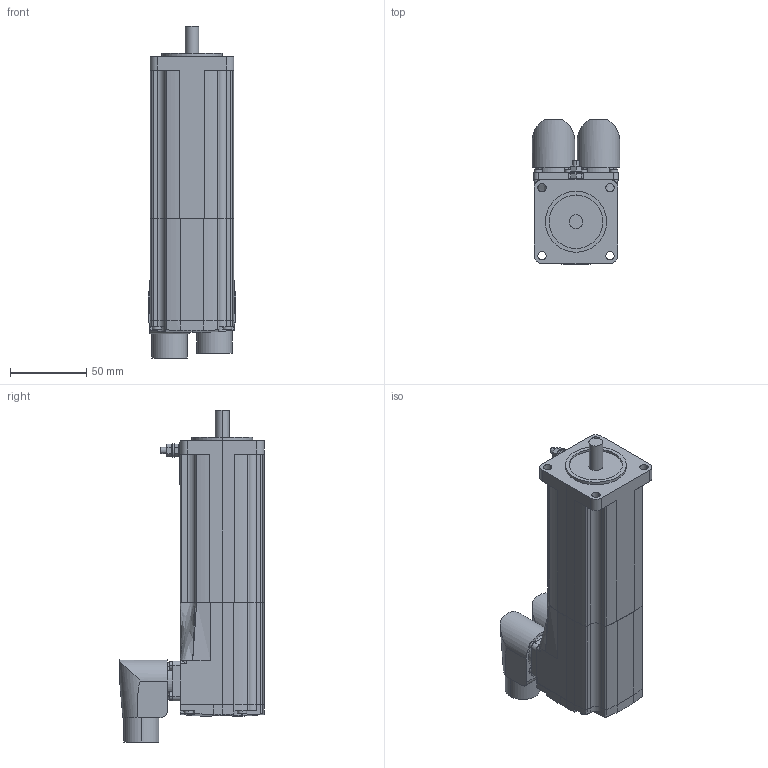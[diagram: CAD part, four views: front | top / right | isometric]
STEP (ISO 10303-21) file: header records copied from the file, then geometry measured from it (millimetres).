
FILE_DESCRIPTION (( 'STEP AP214' ), '1' );
FILE_NAME ('SH30552x0xF2100.STEP', '2013-11-29T07:22:21', ( 'Windows User' ), ( 'Schneider-Electric' ), 'SwSTEP 2.0', 'SolidWorks 2010', '' );
FILE_SCHEMA (( 'AUTOMOTIVE_DESIGN' ));
Length unit declared in the file: millimetre
Products named in the file (7): 1-100011007_K-TOPFGEHÄUSE SH3-055X_000_Topfgehäuse SH30552 ohne Passfeder; 1-100011008_K-LAGERSCHILD SH3-055X-A UND F_000_Lagerschild SH3-055x-F; 1-100011009_K-DECKEL SH3-055X_000_Deckel SH3-055x; 1-100011011_K-ERDUNGSBOLZEN M4_000; K-ENCODER-CONINVERS-ABGEW_ENCODER-CONINVERS-ABGEWINKELT_000_Single- MultiTurn; K-POWER-CONINVERS-ABGEWIN_POWER-CONINVERS-ABGEWINKELT_000_mit Bremse; SH30552x0xF2100
Assembly tree (6 placements, depth 2):
  SH30552x0xF2100
    1-100011008_K-LAGERSCHILD SH3-055X-A UND F_000_Lagerschild SH3-055x-F
    1-100011007_K-TOPFGEHÄUSE SH3-055X_000_Topfgehäuse SH30552 ohne Passfeder
    1-100011011_K-ERDUNGSBOLZEN M4_000
    1-100011009_K-DECKEL SH3-055X_000_Deckel SH3-055x
    K-ENCODER-CONINVERS-ABGEW_ENCODER-CONINVERS-ABGEWINKELT_000_Single- MultiTurn
    K-POWER-CONINVERS-ABGEWIN_POWER-CONINVERS-ABGEWINKELT_000_mit Bremse
Bounding box: 57.5 x 94.5 x 217.45 mm (x, y, z)
Volume: 556228.8 mm3; surface area: 72203.2 mm2
Topology: 6 solids, 6 shells, 400 faces, 997 edges, 658 vertices
Faces by surface type: cylinder 193, plane 170, torus 16, bspline 12, cone 5, sphere 4
Entity records: 13684 total; most frequent: CARTESIAN_POINT 3561, DIRECTION 2163, ORIENTED_EDGE 1990, EDGE_CURVE 995, AXIS2_PLACEMENT_3D 850, VERTEX_POINT 658, VECTOR 463, LINE 463
